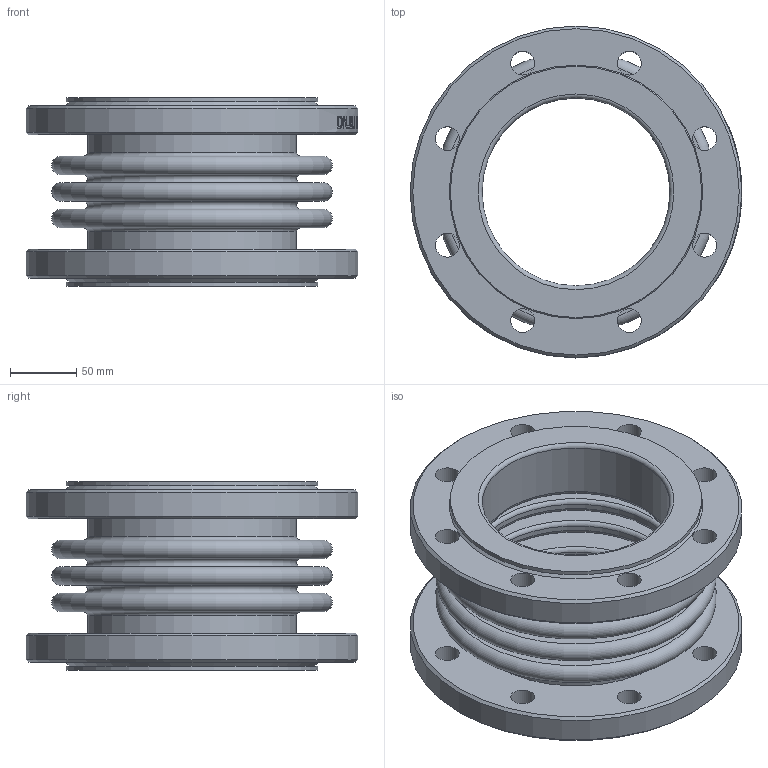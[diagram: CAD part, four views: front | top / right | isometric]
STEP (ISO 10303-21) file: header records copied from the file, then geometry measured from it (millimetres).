
FILE_DESCRIPTION(/* description */ ('D140-02142','CAx-IF Rec.Pracs.---Representation and Presentation of Product Manufacturing Information (PMI)---4.0---2014-10-13'),/* implementation_level */ '2;1');
FILE_NAME(/* name */ '',/* time_stamp */ '2026-04-14T19:17:49+03:00',/* author */ ('DN.RU'),/* organization */ ('DN.RU'),/* preprocessor_version */ 'ST-DEVELOPER v20',/* originating_system */ 'Autodesk Inventor 2025',/* authorisation */ '');
FILE_SCHEMA (('AP242_MANAGED_MODEL_BASED_3D_ENGINEERING_MIM_LF { 1 0 10303 442 1 1 4 }'));
Length unit declared in the file: millimetre
Products named in the file (1): CB-3232P-F
Bounding box: 250 x 250 x 142 mm (x, y, z)
Volume: 1818372.9 mm3; surface area: 491378.7 mm2
Topology: 1 solids, 1 shells, 283 faces, 726 edges, 484 vertices
Faces by surface type: plane 128, bspline 84, cylinder 47, torus 18, cone 6
Full cylindrical faces by diameter (mm): 18 x16, 141.5 x2, 153.5 x2, 157.5 x2, 165.5 x2, 189.5 x2, 250 x2
Entity records: 11655 total; most frequent: CARTESIAN_POINT 4354, ORIENTED_EDGE 1452, DIRECTION 1270, EDGE_CURVE 726, VERTEX_POINT 484, AXIS2_PLACEMENT_3D 477, STYLED_ITEM 361, EDGE_LOOP 356
